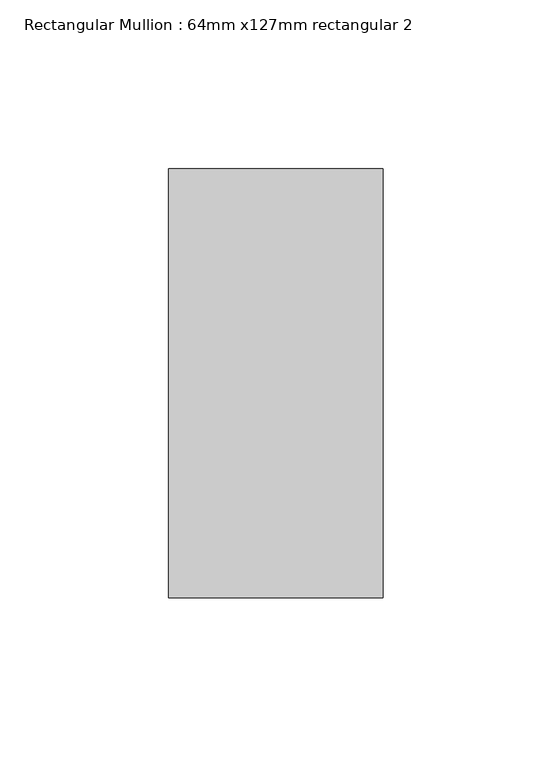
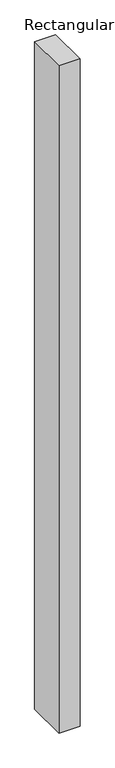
"""IFC4 building model written with IfcOpenShell, lengths in millimetres: member geometry, Rectangular Mullion : 64mm x127mm rectangular 2."""

from ifc_helpers import new_model, si_unit, frame, origin, place, context, project, spatial, polyline, outline, extrude, source, transform, mapped, element, save


def rectangular_mullion_64mm_x127mm_rectangular_2_7cbddb58(model_context):
    return source(origin(), model_context, "Body", "SweptSolid", [
        extrude(outline(polyline([(31.75, 63.5), (31.75, -63.5), (-31.75, -63.5), (-31.75, 63.5), (31.75, 63.5)])), frame((0.0, 0.0, -2133.6), z_axis=(0.0, 0.0, 1.0), x_axis=(1.0, 0.0, 0.0)), (0.0, 0.0, 1.0), 2133.6),
    ])


if __name__ == "__main__":
    model = new_model("IFC4")
    model_context = context("Model", 3, world=origin())
    ifc_project = project(units=[si_unit("LENGTHUNIT", "METRE", prefix="MILLI")], contexts=[model_context])
    site = spatial("IfcSite", under=ifc_project)
    building = spatial("IfcBuilding", under=site)
    placement = place(None, origin())
    rectangular_mullion_64mm_x127mm_rectangular_2_shape = rectangular_mullion_64mm_x127mm_rectangular_2_7cbddb58(model_context)
    element("IfcMember", 1, ObjectType="Rectangular Mullion : 64mm x127mm rectangular 2", at=placement, inside=building, context=model_context, shape_type="MappedRepresentation", body=[
        mapped(rectangular_mullion_64mm_x127mm_rectangular_2_shape, transform((0.0, 0.0, 0.0), x_axis=(1.0, 0.0, 0.0), y_axis=(0.0, 1.0, 0.0), z_axis=(0.0, 0.0, 1.0))),
    ])
    save(model, "model.ifc")
